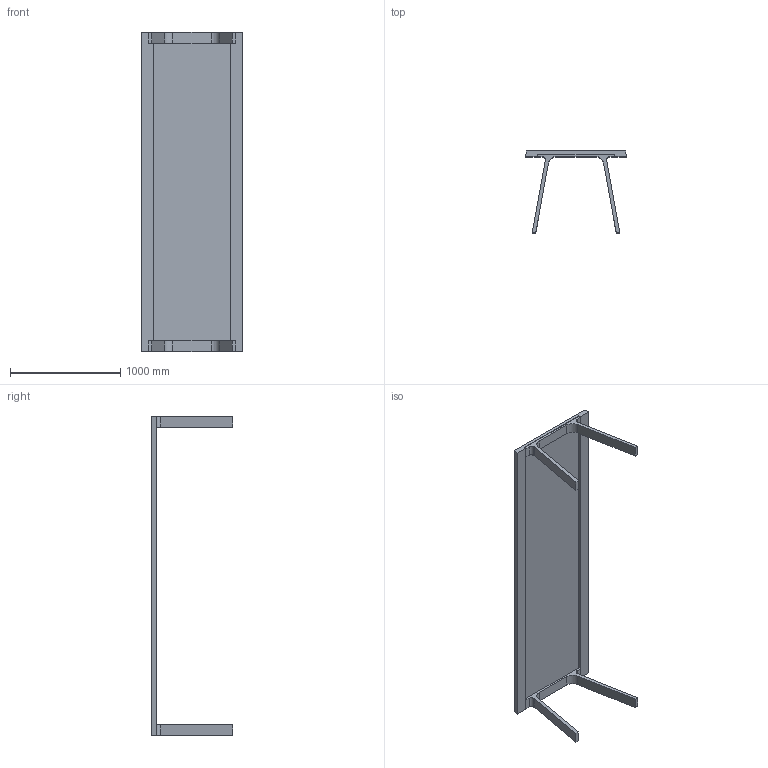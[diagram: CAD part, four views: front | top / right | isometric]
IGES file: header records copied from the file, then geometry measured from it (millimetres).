
Start section: SolidWorks IGES file using analytic representation for surfaces
Global section: file name: G:\Product Info\Doble\3D\solidworks\Doble 290x90x74-poten buiten.IGS; native system: SolidWorks 2008; preprocessor: SolidWorks 2008; author: remko; date: 080826.135624; units: millimetre
Bounding box: 917.63 x 740 x 2900 mm (x, y, z)
Surface area: 6628152.7 mm2 (no closed solid volume)
Topology: 0 solids, 0 shells, 46 faces, 356 edges, 356 vertices
Faces by surface type: bspline 36, revolution 10
